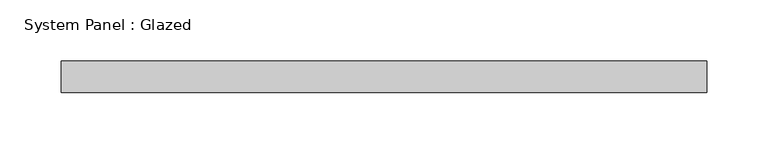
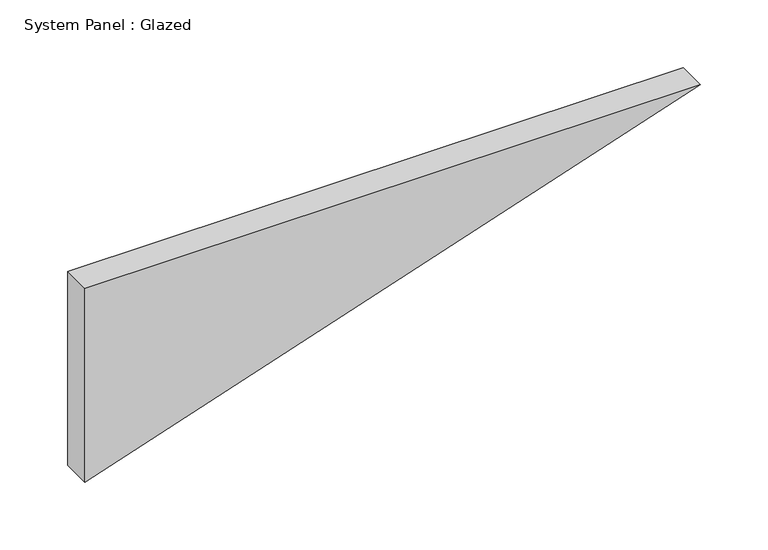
"""IFC4 building model written with IfcOpenShell, lengths in millimetres: plate geometry, System Panel : Glazed."""

from ifc_helpers import new_model, si_unit, frame, origin, place, context, project, spatial, polyline, outline, extrude, source, transform, mapped, element, save


def system_panel_glazed_f9d9f547(model_context):
    return source(origin(), model_context, "Body", "SweptSolid", [
        extrude(outline(polyline([(0.0, -262.2165689), (174.8110459, 262.2165689), (174.8110459, -262.2165689), (0.0, -262.2165689)])), frame((0.0, -44.45, 0.0), z_axis=(0.0, 1.0, 0.0), x_axis=(0.0, 0.0, 1.0)), (0.0, 0.0, 1.0), 25.4),
    ])


if __name__ == "__main__":
    model = new_model("IFC4")
    model_context = context("Model", 3, world=origin())
    ifc_project = project(units=[si_unit("LENGTHUNIT", "METRE", prefix="MILLI")], contexts=[model_context])
    site = spatial("IfcSite", under=ifc_project)
    building = spatial("IfcBuilding", under=site)
    placement = place(None, origin())
    system_panel_glazed_shape = system_panel_glazed_f9d9f547(model_context)
    element("IfcPlate", 1, ObjectType="System Panel : Glazed", at=placement, inside=building, context=model_context, shape_type="MappedRepresentation", body=[
        mapped(system_panel_glazed_shape, transform((0.0, 0.0, 0.0), x_axis=(1.0, 0.0, 0.0), y_axis=(0.0, 1.0, 0.0), z_axis=(0.0, 0.0, 1.0))),
    ])
    save(model, "model.ifc")
